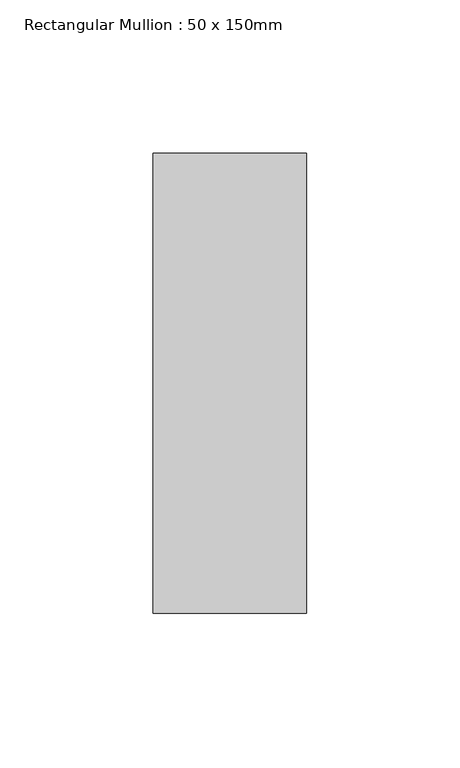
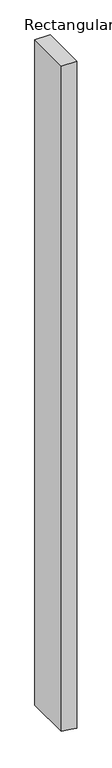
"""IFC4 building model written with IfcOpenShell, lengths in millimetres: member geometry, Rectangular Mullion : 50 x 150mm."""

from ifc_helpers import new_model, si_unit, frame, origin, place, context, project, spatial, polyline, outline, extrude, source, transform, mapped, element, save


def rectangular_mullion_50_x_150mm_e5529793(model_context):
    return source(origin(), model_context, "Body", "SweptSolid", [
        extrude(outline(polyline([(0.0, 25.0), (0.0, -25.0), (-2294.3648052, -25.0), (-2297.8449644, 5.6423937), (-2300.0434726, 25.0), (0.0, 25.0)])), frame((0.0, -75.0, 0.0), z_axis=(0.0, 1.0, 0.0), x_axis=(0.0, 0.0, 1.0)), (0.0, 0.0, 1.0), 150.0),
    ])


if __name__ == "__main__":
    model = new_model("IFC4")
    model_context = context("Model", 3, world=origin())
    ifc_project = project(units=[si_unit("LENGTHUNIT", "METRE", prefix="MILLI")], contexts=[model_context])
    site = spatial("IfcSite", under=ifc_project)
    building = spatial("IfcBuilding", under=site)
    placement = place(None, origin())
    rectangular_mullion_50_x_150mm_shape = rectangular_mullion_50_x_150mm_e5529793(model_context)
    element("IfcMember", 1, ObjectType="Rectangular Mullion : 50 x 150mm", at=placement, inside=building, context=model_context, shape_type="MappedRepresentation", body=[
        mapped(rectangular_mullion_50_x_150mm_shape, transform((0.0, 0.0, 0.0), x_axis=(1.0, 0.0, 0.0), y_axis=(0.0, 1.0, 0.0), z_axis=(0.0, 0.0, 1.0))),
    ])
    save(model, "model.ifc")
